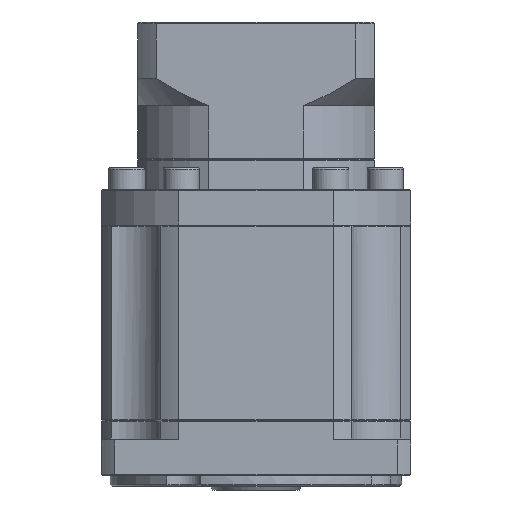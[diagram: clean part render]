
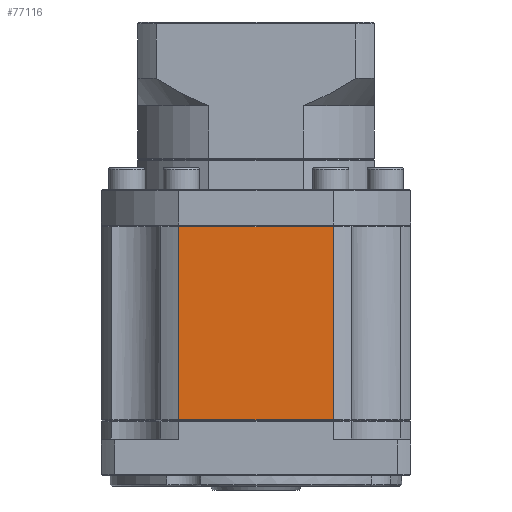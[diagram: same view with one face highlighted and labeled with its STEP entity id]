
A CAD part, front view. The second image highlights one B-rep face of the part: STEP entity #77116.
In plain terms, the highlighted planar face has unit normal (0, -1, 0).
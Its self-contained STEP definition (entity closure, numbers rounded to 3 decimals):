
#1623 = CARTESIAN_POINT ( 'NONE',  ( -46.309, -10.404, -94.156 ) ) ;
#5878 = ORIENTED_EDGE ( 'NONE', *, *, #105486, .F. ) ;
#6301 = CARTESIAN_POINT ( 'NONE',  ( -88.736, -10.404, -41.156 ) ) ;
#9065 = PLANE ( 'NONE',  #88341 ) ;
#11720 = EDGE_CURVE ( 'NONE', #42479, #97590, #60032, .T. ) ;
#24115 = EDGE_CURVE ( 'NONE', #27228, #44325, #76253, .T. ) ;
#24574 = VECTOR ( 'NONE', #53369, 1000. ) ;
#26424 = DIRECTION ( 'NONE',  ( 0., 1., 0. ) ) ;
#27228 = VERTEX_POINT ( 'NONE', #71460 ) ;
#29518 = CARTESIAN_POINT ( 'NONE',  ( -88.736, -10.404, -40.906 ) ) ;
#29619 = ORIENTED_EDGE ( 'NONE', *, *, #24115, .F. ) ;
#35284 = CARTESIAN_POINT ( 'NONE',  ( -46.309, -10.404, -40.906 ) ) ;
#37142 = LINE ( 'NONE', #50303, #59542 ) ;
#40771 = FACE_OUTER_BOUND ( 'NONE', #60160, .T. ) ;
#42479 = VERTEX_POINT ( 'NONE', #76904 ) ;
#43443 = DIRECTION ( 'NONE',  ( 0., 0., -1. ) ) ;
#44325 = VERTEX_POINT ( 'NONE', #1623 ) ;
#50303 = CARTESIAN_POINT ( 'NONE',  ( -67.522, -10.404, -41.156 ) ) ;
#53369 = DIRECTION ( 'NONE',  ( -1., 0., 0. ) ) ;
#54947 = DIRECTION ( 'NONE',  ( 0., 0., 1. ) ) ;
#59542 = VECTOR ( 'NONE', #83122, 1000. ) ;
#60032 = LINE ( 'NONE', #29518, #104814 ) ;
#60160 = EDGE_LOOP ( 'NONE', ( #69143, #29619, #5878, #94123 ) ) ;
#65709 = VECTOR ( 'NONE', #43443, 1000. ) ;
#69143 = ORIENTED_EDGE ( 'NONE', *, *, #80683, .F. ) ;
#69482 = LINE ( 'NONE', #70019, #24574 ) ;
#70019 = CARTESIAN_POINT ( 'NONE',  ( -46.309, -10.404, -94.156 ) ) ;
#71460 = CARTESIAN_POINT ( 'NONE',  ( -46.309, -10.404, -41.156 ) ) ;
#76253 = LINE ( 'NONE', #35284, #65709 ) ;
#76904 = CARTESIAN_POINT ( 'NONE',  ( -88.736, -10.404, -94.156 ) ) ;
#76934 = CARTESIAN_POINT ( 'NONE',  ( -46.309, -10.404, -40.906 ) ) ;
#77116 = ADVANCED_FACE ( 'NONE', ( #40771 ), #9065, .F. ) ;
#80683 = EDGE_CURVE ( 'NONE', #44325, #42479, #69482, .T. ) ;
#83122 = DIRECTION ( 'NONE',  ( 1., 0., 0. ) ) ;
#85368 = DIRECTION ( 'NONE',  ( 0., 0., 1. ) ) ;
#88341 = AXIS2_PLACEMENT_3D ( 'NONE', #76934, #26424, #85368 ) ;
#94123 = ORIENTED_EDGE ( 'NONE', *, *, #11720, .F. ) ;
#97590 = VERTEX_POINT ( 'NONE', #6301 ) ;
#104814 = VECTOR ( 'NONE', #54947, 1000. ) ;
#105486 = EDGE_CURVE ( 'NONE', #97590, #27228, #37142, .T. ) ;
